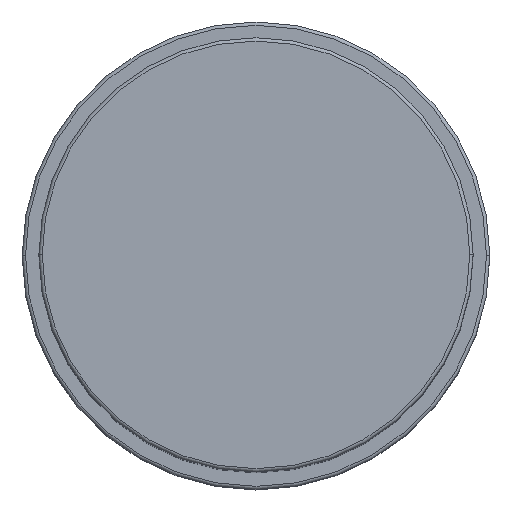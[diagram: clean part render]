
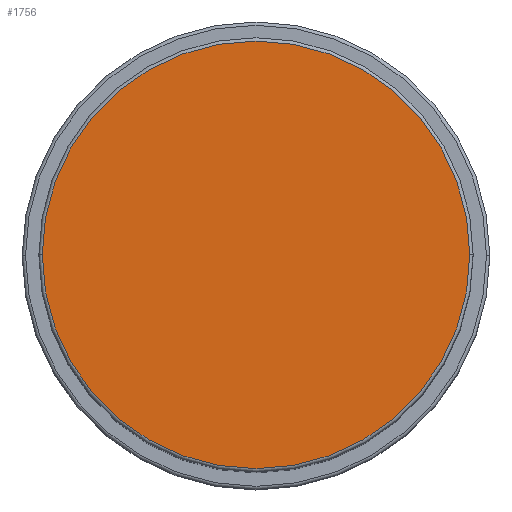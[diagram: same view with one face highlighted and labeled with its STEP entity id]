
A CAD part, top view. The second image highlights one B-rep face of the part: STEP entity #1756.
In plain terms, the highlighted planar face has unit normal (0, 0, 1).
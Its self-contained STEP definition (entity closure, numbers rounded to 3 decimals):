
#104 = CARTESIAN_POINT ( 'NONE',  ( 0., 0., 112. ) ) ;
#131 = CARTESIAN_POINT ( 'NONE',  ( 0., 0., 112. ) ) ;
#281 = VERTEX_POINT ( 'NONE', #291 ) ;
#282 = PLANE ( 'NONE',  #1125 ) ;
#291 = CARTESIAN_POINT ( 'NONE',  ( -32., 0., 112. ) ) ;
#307 = VERTEX_POINT ( 'NONE', #1272 ) ;
#342 = DIRECTION ( 'NONE',  ( 0., 0., 1. ) ) ;
#518 = EDGE_CURVE ( 'NONE', #281, #307, #1970, .T. ) ;
#545 = DIRECTION ( 'NONE',  ( 1., 0., 0. ) ) ;
#710 = DIRECTION ( 'NONE',  ( 0., 0., 1. ) ) ;
#743 = DIRECTION ( 'NONE',  ( 0., 0., 1. ) ) ;
#973 = DIRECTION ( 'NONE',  ( 1., 0., 0. ) ) ;
#1053 = EDGE_LOOP ( 'NONE', ( #1774, #1202 ) ) ;
#1125 = AXIS2_PLACEMENT_3D ( 'NONE', #1993, #743, #1850 ) ;
#1202 = ORIENTED_EDGE ( 'NONE', *, *, #518, .T. ) ;
#1272 = CARTESIAN_POINT ( 'NONE',  ( 32., 0., 112. ) ) ;
#1551 = EDGE_CURVE ( 'NONE', #307, #281, #1967, .T. ) ;
#1604 = AXIS2_PLACEMENT_3D ( 'NONE', #131, #342, #973 ) ;
#1756 = ADVANCED_FACE ( 'NONE', ( #1778 ), #282, .T. ) ;
#1774 = ORIENTED_EDGE ( 'NONE', *, *, #1551, .T. ) ;
#1778 = FACE_OUTER_BOUND ( 'NONE', #1053, .T. ) ;
#1850 = DIRECTION ( 'NONE',  ( 1., 0., 0. ) ) ;
#1967 = CIRCLE ( 'NONE', #2014, 32. ) ;
#1970 = CIRCLE ( 'NONE', #1604, 32. ) ;
#1993 = CARTESIAN_POINT ( 'NONE',  ( 0., 0., 112. ) ) ;
#2014 = AXIS2_PLACEMENT_3D ( 'NONE', #104, #710, #545 ) ;
